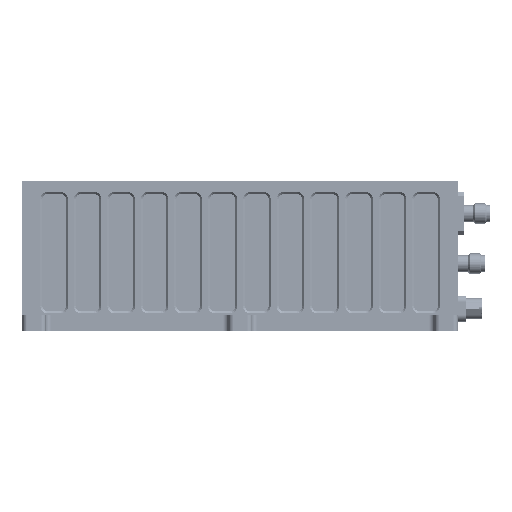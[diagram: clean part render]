
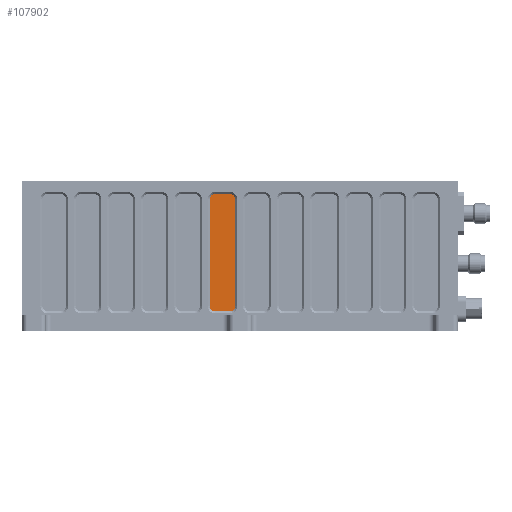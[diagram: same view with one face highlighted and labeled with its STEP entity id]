
A CAD part, front view. The second image highlights one B-rep face of the part: STEP entity #107902.
In plain terms, the highlighted planar face has unit normal (0, -1, 0).
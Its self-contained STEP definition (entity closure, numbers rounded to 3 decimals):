
#515 = VERTEX_POINT ( 'NONE', #14960 ) ;
#1799 = DIRECTION ( 'NONE',  ( 0., 0., -1. ) ) ;
#2917 = VERTEX_POINT ( 'NONE', #58076 ) ;
#7061 = ORIENTED_EDGE ( 'NONE', *, *, #84841, .T. ) ;
#8418 = DIRECTION ( 'NONE',  ( 0., -1., 0. ) ) ;
#10511 = ORIENTED_EDGE ( 'NONE', *, *, #39610, .T. ) ;
#10655 = CARTESIAN_POINT ( 'NONE',  ( 63.5, -193.5, 7.5 ) ) ;
#10838 = CARTESIAN_POINT ( 'NONE',  ( 56., -193.5, 41. ) ) ;
#11049 = CARTESIAN_POINT ( 'NONE',  ( 57.5, -193.5, 41. ) ) ;
#11576 = CARTESIAN_POINT ( 'NONE',  ( 62., -193.5, 41. ) ) ;
#14960 = CARTESIAN_POINT ( 'NONE',  ( 56., -193.5, 39.5 ) ) ;
#17060 = AXIS2_PLACEMENT_3D ( 'NONE', #20887, #67168, #1799 ) ;
#17499 = VECTOR ( 'NONE', #81912, 1000. ) ;
#19439 = LINE ( 'NONE', #68147, #47000 ) ;
#20887 = CARTESIAN_POINT ( 'NONE',  ( 0., -193.5, 0. ) ) ;
#21013 = DIRECTION ( 'NONE',  ( 0., -1., 0. ) ) ;
#24001 = CIRCLE ( 'NONE', #91254, 1.5 ) ;
#26379 = DIRECTION ( 'NONE',  ( 0., -1., 0. ) ) ;
#27438 = CARTESIAN_POINT ( 'NONE',  ( 57.5, -193.5, 7.5 ) ) ;
#28114 = EDGE_CURVE ( 'NONE', #124825, #2917, #87687, .T. ) ;
#35299 = ORIENTED_EDGE ( 'NONE', *, *, #123991, .T. ) ;
#36175 = ORIENTED_EDGE ( 'NONE', *, *, #127860, .T. ) ;
#37235 = DIRECTION ( 'NONE',  ( -1., 0., 0. ) ) ;
#39610 = EDGE_CURVE ( 'NONE', #515, #124825, #100982, .T. ) ;
#39991 = PLANE ( 'NONE',  #17060 ) ;
#40933 = EDGE_CURVE ( 'NONE', #57501, #91665, #19439, .T. ) ;
#45410 = ORIENTED_EDGE ( 'NONE', *, *, #53575, .T. ) ;
#47000 = VECTOR ( 'NONE', #37235, 1000. ) ;
#47922 = DIRECTION ( 'NONE',  ( 0., 0., -1. ) ) ;
#49347 = DIRECTION ( 'NONE',  ( 0., 0., -1. ) ) ;
#52764 = VERTEX_POINT ( 'NONE', #10655 ) ;
#53575 = EDGE_CURVE ( 'NONE', #123564, #52764, #66720, .T. ) ;
#55834 = DIRECTION ( 'NONE',  ( 1., 0., 0. ) ) ;
#56499 = CARTESIAN_POINT ( 'NONE',  ( 56., -193.5, 6. ) ) ;
#56687 = CARTESIAN_POINT ( 'NONE',  ( 57.5, -193.5, 39.5 ) ) ;
#57501 = VERTEX_POINT ( 'NONE', #11576 ) ;
#58076 = CARTESIAN_POINT ( 'NONE',  ( 57.5, -193.5, 6. ) ) ;
#58958 = CIRCLE ( 'NONE', #105121, 1.5 ) ;
#61011 = LINE ( 'NONE', #69587, #97765 ) ;
#66720 = CIRCLE ( 'NONE', #106618, 1.5 ) ;
#67168 = DIRECTION ( 'NONE',  ( 0., -1., 0. ) ) ;
#68147 = CARTESIAN_POINT ( 'NONE',  ( 56., -193.5, 41. ) ) ;
#69587 = CARTESIAN_POINT ( 'NONE',  ( 63.5, -193.5, 41. ) ) ;
#71019 = CARTESIAN_POINT ( 'NONE',  ( 62., -193.5, 39.5 ) ) ;
#76497 = CARTESIAN_POINT ( 'NONE',  ( 63.5, -193.5, 39.5 ) ) ;
#77094 = EDGE_LOOP ( 'NONE', ( #7061, #45410, #35299, #36175, #127151, #83811, #10511, #127219 ) ) ;
#81912 = DIRECTION ( 'NONE',  ( 0., 0., -1. ) ) ;
#83811 = ORIENTED_EDGE ( 'NONE', *, *, #87749, .T. ) ;
#84841 = EDGE_CURVE ( 'NONE', #2917, #123564, #126865, .T. ) ;
#87687 = CIRCLE ( 'NONE', #125562, 1.5 ) ;
#87749 = EDGE_CURVE ( 'NONE', #91665, #515, #24001, .T. ) ;
#89308 = FACE_OUTER_BOUND ( 'NONE', #77094, .T. ) ;
#91254 = AXIS2_PLACEMENT_3D ( 'NONE', #56687, #26379, #95482 ) ;
#91665 = VERTEX_POINT ( 'NONE', #11049 ) ;
#95482 = DIRECTION ( 'NONE',  ( 0., 0., -1. ) ) ;
#97164 = DIRECTION ( 'NONE',  ( 0., 0., -1. ) ) ;
#97765 = VECTOR ( 'NONE', #111003, 1000. ) ;
#97865 = CARTESIAN_POINT ( 'NONE',  ( 62., -193.5, 7.5 ) ) ;
#100982 = LINE ( 'NONE', #10838, #17499 ) ;
#103824 = VERTEX_POINT ( 'NONE', #76497 ) ;
#105121 = AXIS2_PLACEMENT_3D ( 'NONE', #71019, #21013, #49347 ) ;
#106618 = AXIS2_PLACEMENT_3D ( 'NONE', #97865, #8418, #47922 ) ;
#107902 = ADVANCED_FACE ( 'NONE', ( #89308 ), #39991, .T. ) ;
#109872 = CARTESIAN_POINT ( 'NONE',  ( 56., -193.5, 7.5 ) ) ;
#111003 = DIRECTION ( 'NONE',  ( 0., 0., 1. ) ) ;
#112444 = CARTESIAN_POINT ( 'NONE',  ( 62., -193.5, 6. ) ) ;
#120310 = VECTOR ( 'NONE', #55834, 1000. ) ;
#123564 = VERTEX_POINT ( 'NONE', #112444 ) ;
#123991 = EDGE_CURVE ( 'NONE', #52764, #103824, #61011, .T. ) ;
#124825 = VERTEX_POINT ( 'NONE', #109872 ) ;
#125562 = AXIS2_PLACEMENT_3D ( 'NONE', #27438, #128128, #97164 ) ;
#126865 = LINE ( 'NONE', #56499, #120310 ) ;
#127151 = ORIENTED_EDGE ( 'NONE', *, *, #40933, .T. ) ;
#127219 = ORIENTED_EDGE ( 'NONE', *, *, #28114, .T. ) ;
#127860 = EDGE_CURVE ( 'NONE', #103824, #57501, #58958, .T. ) ;
#128128 = DIRECTION ( 'NONE',  ( 0., -1., 0. ) ) ;
